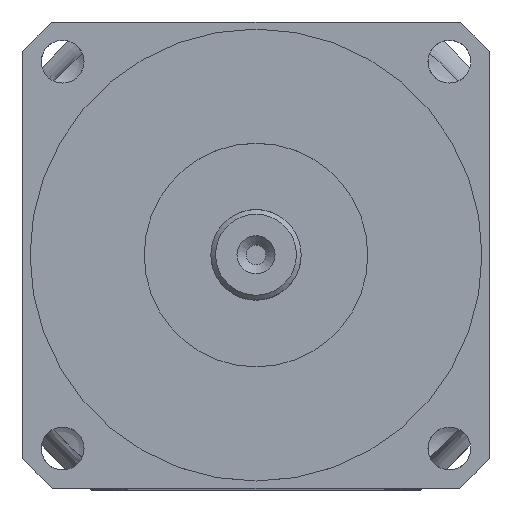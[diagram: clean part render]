
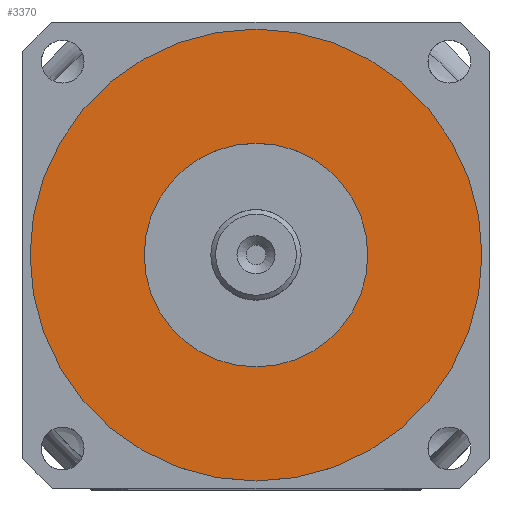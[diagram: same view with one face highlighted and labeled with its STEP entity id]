
A CAD part, top view. The second image highlights one B-rep face of the part: STEP entity #3370.
In plain terms, the highlighted planar face has unit normal (0, 0, 1).
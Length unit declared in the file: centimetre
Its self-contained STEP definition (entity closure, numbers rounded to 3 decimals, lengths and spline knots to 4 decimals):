
#1046=VERTEX_POINT('',#8277);
#1048=VERTEX_POINT('',#8282);
#1416=EDGE_CURVE('',#1046,#1046,#3974,.T.);
#1418=EDGE_CURVE('',#1048,#1048,#3976,.T.);
#1977=ORIENTED_EDGE('',*,*,#1418,.F.);
#1978=ORIENTED_EDGE('',*,*,#1416,.F.);
#2790=EDGE_LOOP('',(#1977));
#2791=EDGE_LOOP('',(#1978));
#3088=FACE_BOUND('',#2790,.T.);
#3089=FACE_BOUND('',#2791,.T.);
#3370=ADVANCED_FACE('',(#3088,#3089),#6572,.T.);
#3974=CIRCLE('',#5898,4.75);
#3976=CIRCLE('',#5901,2.35);
#5898=AXIS2_PLACEMENT_3D('',#8276,#9365,#9366);
#5901=AXIS2_PLACEMENT_3D('',#8281,#9371,#9372);
#5903=AXIS2_PLACEMENT_3D('',#8285,#9375,$);
#6572=PLANE('',#5903);
#8276=CARTESIAN_POINT('',(0.,0.,1.6));
#8277=CARTESIAN_POINT('',(4.75,0.,1.6));
#8281=CARTESIAN_POINT('',(0.,0.,1.6));
#8282=CARTESIAN_POINT('',(2.35,0.,1.6));
#8285=CARTESIAN_POINT('',(0.,0.,1.6));
#9365=DIRECTION('',(0.,0.,-1.));
#9366=DIRECTION('',(4.75,0.,0.));
#9371=DIRECTION('',(0.,0.,1.));
#9372=DIRECTION('',(2.35,0.,0.));
#9375=DIRECTION('',(0.,0.,1.));
